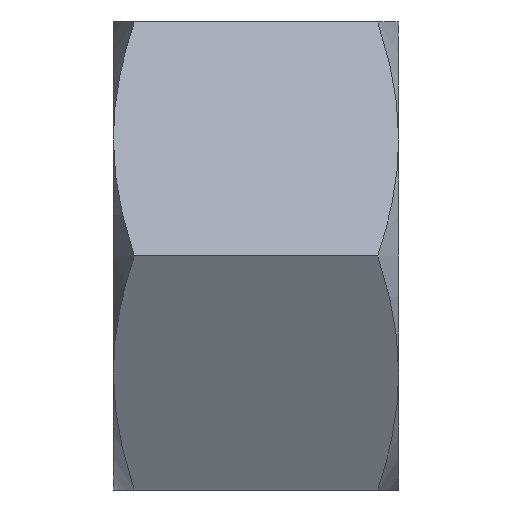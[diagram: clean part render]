
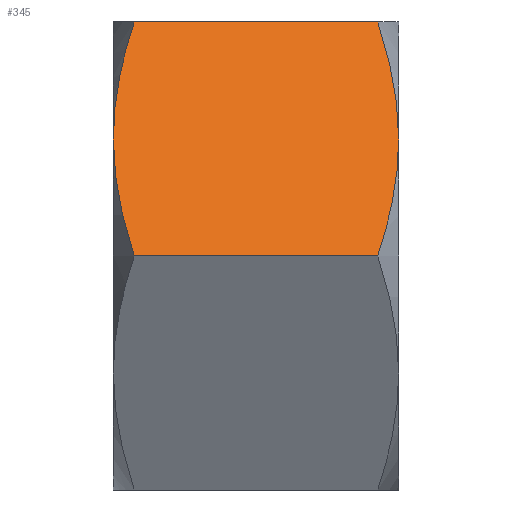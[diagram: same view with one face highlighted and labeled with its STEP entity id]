
A CAD part, front view. The second image highlights one B-rep face of the part: STEP entity #345.
In plain terms, the highlighted planar face has unit normal (0, -0.866, 0.5).
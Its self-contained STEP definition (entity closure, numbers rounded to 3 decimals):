
#15=(
BOUNDED_CURVE()
B_SPLINE_CURVE(2,(#548,#549,#550),.UNSPECIFIED.,.F.,.F.)
B_SPLINE_CURVE_WITH_KNOTS((3,3),(0.615,1.23),
 .UNSPECIFIED.)
CURVE()
GEOMETRIC_REPRESENTATION_ITEM()
RATIONAL_B_SPLINE_CURVE((1.,1.038,1.))
REPRESENTATION_ITEM('')
);
#20=(
BOUNDED_CURVE()
B_SPLINE_CURVE(2,(#567,#568,#569),.UNSPECIFIED.,.F.,.F.)
B_SPLINE_CURVE_WITH_KNOTS((3,3),(0.,0.615),.UNSPECIFIED.)
CURVE()
GEOMETRIC_REPRESENTATION_ITEM()
RATIONAL_B_SPLINE_CURVE((1.,1.038,1.))
REPRESENTATION_ITEM('')
);
#27=(
BOUNDED_CURVE()
B_SPLINE_CURVE(2,(#596,#597,#598),.UNSPECIFIED.,.F.,.F.)
B_SPLINE_CURVE_WITH_KNOTS((3,3),(0.,0.615),.UNSPECIFIED.)
CURVE()
GEOMETRIC_REPRESENTATION_ITEM()
RATIONAL_B_SPLINE_CURVE((1.,1.038,1.))
REPRESENTATION_ITEM('')
);
#32=(
BOUNDED_CURVE()
B_SPLINE_CURVE(2,(#615,#616,#617),.UNSPECIFIED.,.F.,.F.)
B_SPLINE_CURVE_WITH_KNOTS((3,3),(0.615,1.23),
 .UNSPECIFIED.)
CURVE()
GEOMETRIC_REPRESENTATION_ITEM()
RATIONAL_B_SPLINE_CURVE((1.,1.038,1.))
REPRESENTATION_ITEM('')
);
#45=PLANE('',#408);
#69=FACE_OUTER_BOUND('',#94,.T.);
#94=EDGE_LOOP('',(#288,#289,#290,#291,#292,#293));
#103=LINE('',#646,#112);
#104=LINE('',#648,#113);
#112=VECTOR('',#491,10.);
#113=VECTOR('',#494,10.);
#138=VERTEX_POINT('',#518);
#149=VERTEX_POINT('',#543);
#150=VERTEX_POINT('',#547);
#152=VERTEX_POINT('',#563);
#156=VERTEX_POINT('',#595);
#158=VERTEX_POINT('',#611);
#182=EDGE_CURVE('',#138,#150,#15,.T.);
#187=EDGE_CURVE('',#152,#138,#20,.T.);
#194=EDGE_CURVE('',#156,#149,#27,.T.);
#199=EDGE_CURVE('',#149,#158,#32,.T.);
#208=EDGE_CURVE('',#152,#158,#103,.T.);
#209=EDGE_CURVE('',#150,#156,#104,.T.);
#288=ORIENTED_EDGE('',*,*,#187,.T.);
#289=ORIENTED_EDGE('',*,*,#182,.T.);
#290=ORIENTED_EDGE('',*,*,#209,.T.);
#291=ORIENTED_EDGE('',*,*,#194,.T.);
#292=ORIENTED_EDGE('',*,*,#199,.T.);
#293=ORIENTED_EDGE('',*,*,#208,.F.);
#345=ADVANCED_FACE('',(#69),#45,.T.);
#408=AXIS2_PLACEMENT_3D('',#647,#492,#493);
#491=DIRECTION('',(1.,0.,0.));
#492=DIRECTION('center_axis',(0.,-0.866,0.5));
#493=DIRECTION('ref_axis',(0.,-0.5,-0.866));
#494=DIRECTION('',(1.,0.,0.));
#518=CARTESIAN_POINT('',(0.,-9.093,5.25));
#543=CARTESIAN_POINT('',(12.8,-9.093,5.25));
#547=CARTESIAN_POINT('',(0.938,-12.124,0.));
#548=CARTESIAN_POINT('Ctrl Pts',(0.,-9.093,5.25));
#549=CARTESIAN_POINT('Ctrl Pts',(0.,-10.5,2.813));
#550=CARTESIAN_POINT('Ctrl Pts',(0.938,-12.124,0.));
#563=CARTESIAN_POINT('',(0.938,-6.062,10.5));
#567=CARTESIAN_POINT('Ctrl Pts',(0.938,-6.062,10.5));
#568=CARTESIAN_POINT('Ctrl Pts',(0.,-7.687,
7.687));
#569=CARTESIAN_POINT('Ctrl Pts',(0.,-9.093,5.25));
#595=CARTESIAN_POINT('',(11.862,-12.124,0.));
#596=CARTESIAN_POINT('Ctrl Pts',(11.862,-12.124,0.));
#597=CARTESIAN_POINT('Ctrl Pts',(12.8,-10.5,2.813));
#598=CARTESIAN_POINT('Ctrl Pts',(12.8,-9.093,5.25));
#611=CARTESIAN_POINT('',(11.862,-6.062,10.5));
#615=CARTESIAN_POINT('Ctrl Pts',(12.8,-9.093,5.25));
#616=CARTESIAN_POINT('Ctrl Pts',(12.8,-7.687,7.687));
#617=CARTESIAN_POINT('Ctrl Pts',(11.862,-6.062,10.5));
#646=CARTESIAN_POINT('',(0.,-6.062,10.5));
#647=CARTESIAN_POINT('Origin',(0.,-12.124,0.));
#648=CARTESIAN_POINT('',(0.,-12.124,0.));
